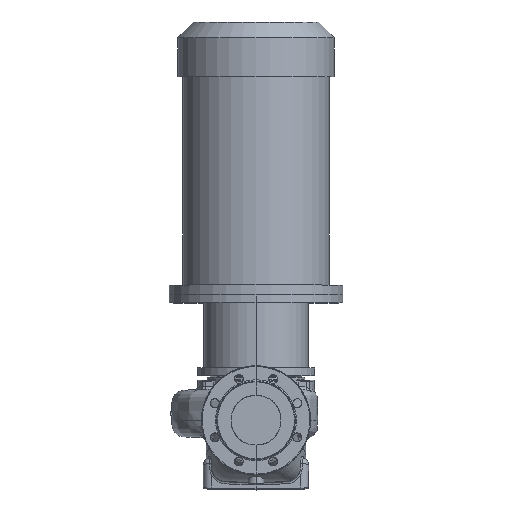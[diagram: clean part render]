
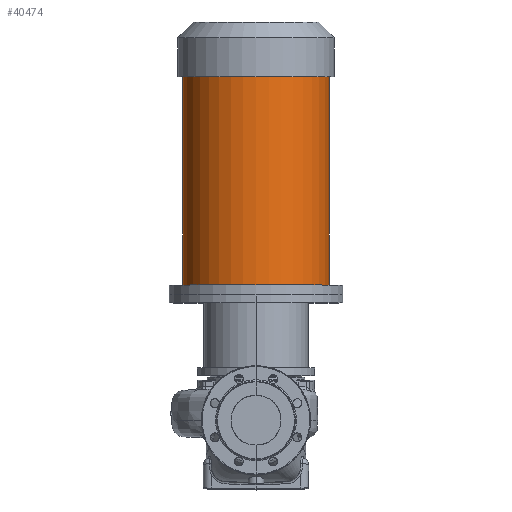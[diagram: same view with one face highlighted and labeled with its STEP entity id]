
A CAD part, top view. The second image highlights one B-rep face of the part: STEP entity #40474.
In plain terms, the highlighted cylindrical face has radius 147.5 mm (diameter 295 mm), a partial arc.
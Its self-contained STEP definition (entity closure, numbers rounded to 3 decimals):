
#261 = CARTESIAN_POINT ( 'NONE',  ( 147.5, 692.8, 0. ) ) ;
#463 = VERTEX_POINT ( 'NONE', #261 ) ;
#2742 = CARTESIAN_POINT ( 'NONE',  ( 147.5, 252.8, 0. ) ) ;
#3501 = CARTESIAN_POINT ( 'NONE',  ( 0., 252.8, 0. ) ) ;
#3567 = EDGE_CURVE ( 'NONE', #463, #24036, #17350, .T. ) ;
#4121 = CARTESIAN_POINT ( 'NONE',  ( -147.5, 272.8, 0. ) ) ;
#8372 = DIRECTION ( 'NONE',  ( -1., 0., 0. ) ) ;
#8719 = DIRECTION ( 'NONE',  ( -1., 0., 0. ) ) ;
#8792 = DIRECTION ( 'NONE',  ( 0., -1., 0. ) ) ;
#8986 = EDGE_CURVE ( 'NONE', #24036, #32130, #20239, .T. ) ;
#9262 = AXIS2_PLACEMENT_3D ( 'NONE', #35028, #19518, #65085 ) ;
#9487 = CARTESIAN_POINT ( 'NONE',  ( 147.5, 272.8, 0. ) ) ;
#13348 = CARTESIAN_POINT ( 'NONE',  ( 0., 272.8, 0. ) ) ;
#15174 = CARTESIAN_POINT ( 'NONE',  ( -147.5, 252.8, 0. ) ) ;
#15748 = VECTOR ( 'NONE', #23236, 1000. ) ;
#17350 = LINE ( 'NONE', #2742, #15748 ) ;
#18811 = DIRECTION ( 'NONE',  ( 0., -1., 0. ) ) ;
#19518 = DIRECTION ( 'NONE',  ( 0., -1., 0. ) ) ;
#20239 = CIRCLE ( 'NONE', #59454, 147.5 ) ;
#22128 = EDGE_CURVE ( 'NONE', #56860, #32130, #58354, .T. ) ;
#23236 = DIRECTION ( 'NONE',  ( 0., -1., 0. ) ) ;
#24036 = VERTEX_POINT ( 'NONE', #9487 ) ;
#29367 = ORIENTED_EDGE ( 'NONE', *, *, #22128, .T. ) ;
#29932 = DIRECTION ( 'NONE',  ( 0., -1., 0. ) ) ;
#31641 = ORIENTED_EDGE ( 'NONE', *, *, #8986, .F. ) ;
#32130 = VERTEX_POINT ( 'NONE', #4121 ) ;
#32322 = CYLINDRICAL_SURFACE ( 'NONE', #37218, 147.5 ) ;
#35028 = CARTESIAN_POINT ( 'NONE',  ( 0., 692.8, 0. ) ) ;
#35351 = CARTESIAN_POINT ( 'NONE',  ( -147.5, 692.8, 0. ) ) ;
#37218 = AXIS2_PLACEMENT_3D ( 'NONE', #3501, #8792, #8372 ) ;
#39551 = EDGE_LOOP ( 'NONE', ( #64463, #61492, #29367, #31641 ) ) ;
#40474 = ADVANCED_FACE ( 'NONE', ( #41867 ), #32322, .T. ) ;
#41867 = FACE_OUTER_BOUND ( 'NONE', #39551, .T. ) ;
#44883 = CIRCLE ( 'NONE', #9262, 147.5 ) ;
#56860 = VERTEX_POINT ( 'NONE', #35351 ) ;
#58354 = LINE ( 'NONE', #15174, #63860 ) ;
#59454 = AXIS2_PLACEMENT_3D ( 'NONE', #13348, #18811, #8719 ) ;
#61492 = ORIENTED_EDGE ( 'NONE', *, *, #65558, .T. ) ;
#63860 = VECTOR ( 'NONE', #29932, 1000. ) ;
#64463 = ORIENTED_EDGE ( 'NONE', *, *, #3567, .F. ) ;
#65085 = DIRECTION ( 'NONE',  ( -1., 0., 0. ) ) ;
#65558 = EDGE_CURVE ( 'NONE', #463, #56860, #44883, .T. ) ;
